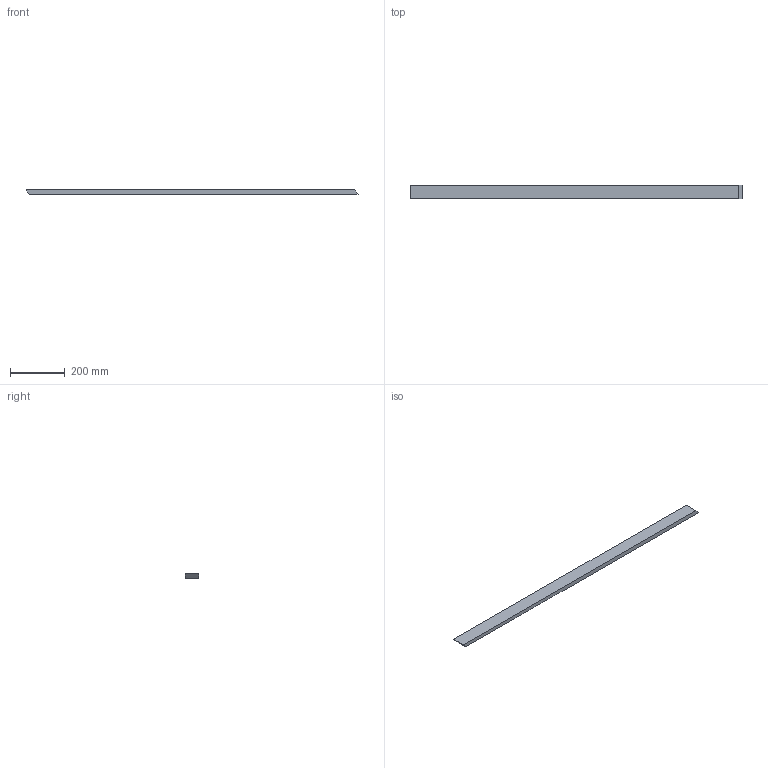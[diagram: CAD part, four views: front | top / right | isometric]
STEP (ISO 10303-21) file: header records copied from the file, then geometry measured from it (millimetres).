
FILE_DESCRIPTION(/* description */ (''),/* implementation_level */ '2;1');
FILE_NAME(/* name */ 'Pos104-Plaatwerk D= 15-S235JRG2-9st',/* time_stamp */ '2024-08-06T13:49:49+02:00',/* author */ (''),/* organization */ (''),/* preprocessor_version */ 'ST-DEVELOPER v16.5',/* originating_system */ 'HiCAD 2024 2901.2 Build 361',/* authorisation */ '');
FILE_SCHEMA (('AUTOMOTIVE_DESIGN { 1 0 10303 214 1 1 1 1 }'));
Length unit declared in the file: millimetre
Products named in the file (1): Pos104-Plaatwerk D= 15-S235JRG2-9st
Bounding box: 1208.83 x 50 x 15 mm (x, y, z)
Volume: 897514.2 mm3; surface area: 157499.3 mm2
Topology: 1 solids, 1 shells, 6 faces, 12 edges, 8 vertices
Faces by surface type: plane 6
Entity records: 294 total; most frequent: CARTESIAN_POINT 26, PRESENTATION_STYLE_ASSIGNMENT 25, COLOUR_RGB 25, DRAUGHTING_PRE_DEFINED_CURVE_FONT 24, CURVE_STYLE 24, OVER_RIDING_STYLED_ITEM 24, ORIENTED_EDGE 24, DIRECTION 24
